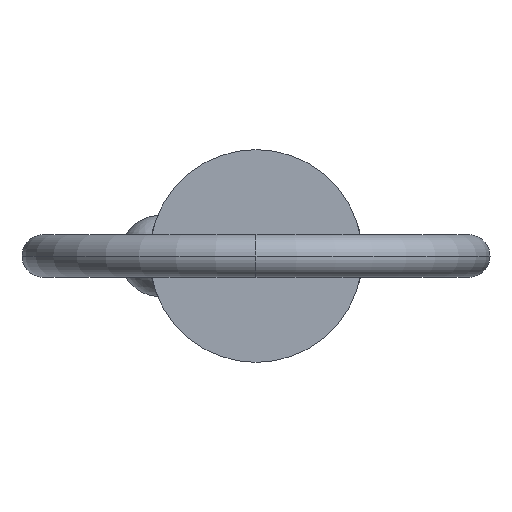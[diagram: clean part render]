
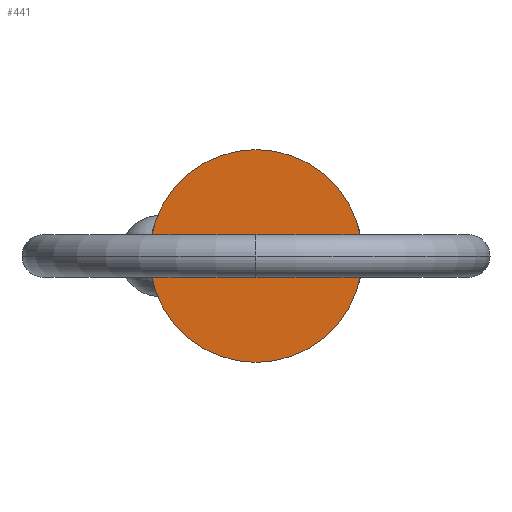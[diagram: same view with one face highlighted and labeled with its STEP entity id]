
A CAD part, left-side view. The second image highlights one B-rep face of the part: STEP entity #441.
In plain terms, the highlighted planar face has unit normal (-1, 0, 0).
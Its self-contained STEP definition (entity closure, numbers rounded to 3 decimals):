
#6 = PLANE ( 'NONE',  #37 ) ;
#25 = DIRECTION ( 'NONE',  ( 0., 0., -1. ) ) ;
#37 = AXIS2_PLACEMENT_3D ( 'NONE', #341, #408, #222 ) ;
#114 = VERTEX_POINT ( 'NONE', #319 ) ;
#115 = EDGE_CURVE ( 'NONE', #114, #496, #573, .T. ) ;
#140 = EDGE_LOOP ( 'NONE', ( #644, #638 ) ) ;
#143 = AXIS2_PLACEMENT_3D ( 'NONE', #648, #359, #25 ) ;
#222 = DIRECTION ( 'NONE',  ( 0., 0., 1. ) ) ;
#227 = CARTESIAN_POINT ( 'NONE',  ( 0., 0., -9.525 ) ) ;
#265 = CARTESIAN_POINT ( 'NONE',  ( 0., 0., 0. ) ) ;
#319 = CARTESIAN_POINT ( 'NONE',  ( 0., 0., 9.525 ) ) ;
#341 = CARTESIAN_POINT ( 'NONE',  ( 0., 0., 0. ) ) ;
#359 = DIRECTION ( 'NONE',  ( 1., 0., 0. ) ) ;
#407 = EDGE_CURVE ( 'NONE', #496, #114, #757, .T. ) ;
#408 = DIRECTION ( 'NONE',  ( -1., 0., 0. ) ) ;
#441 = ADVANCED_FACE ( 'NONE', ( #785 ), #6, .T. ) ;
#496 = VERTEX_POINT ( 'NONE', #227 ) ;
#545 = AXIS2_PLACEMENT_3D ( 'NONE', #265, #556, #691 ) ;
#556 = DIRECTION ( 'NONE',  ( 1., 0., 0. ) ) ;
#573 = CIRCLE ( 'NONE', #545, 9.525 ) ;
#638 = ORIENTED_EDGE ( 'NONE', *, *, #115, .F. ) ;
#644 = ORIENTED_EDGE ( 'NONE', *, *, #407, .F. ) ;
#648 = CARTESIAN_POINT ( 'NONE',  ( 0., 0., 0. ) ) ;
#691 = DIRECTION ( 'NONE',  ( 0., 0., -1. ) ) ;
#757 = CIRCLE ( 'NONE', #143, 9.525 ) ;
#785 = FACE_OUTER_BOUND ( 'NONE', #140, .T. ) ;
